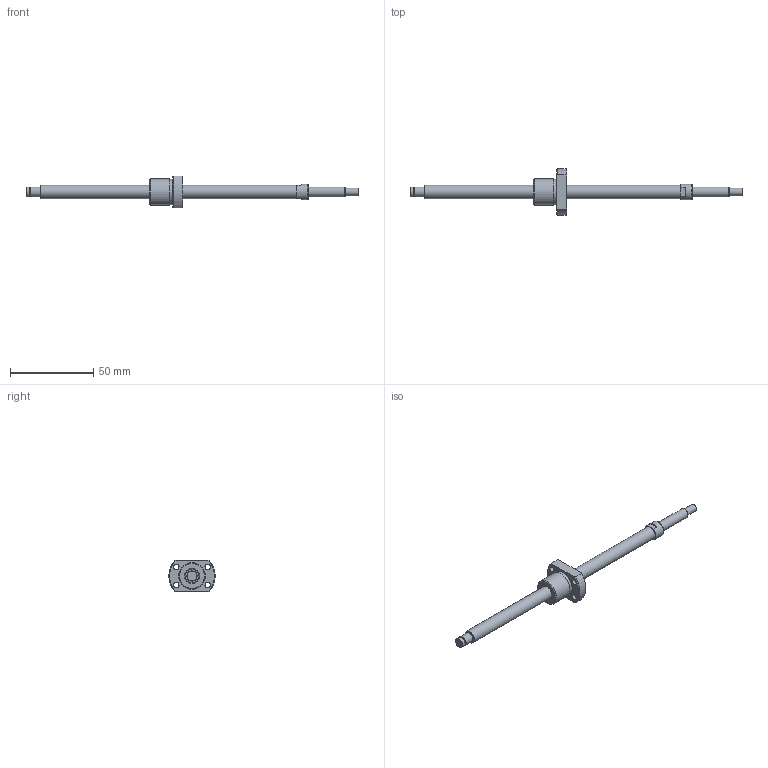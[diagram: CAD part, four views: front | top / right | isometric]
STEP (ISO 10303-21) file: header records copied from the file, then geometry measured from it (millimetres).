
FILE_DESCRIPTION(/* description */ ('STEP AP214'),/* implementation_level */ '2;1');
FILE_NAME(/* name */ 'NSGF0801Z-151R200C3-0-T-S-T-B-(65.5-S)',/* time_stamp */ '2026-08-24T20:10:02+02:00',/* author */ ('License CC BY-ND 4.0'),/* organization */ ('CADENAS'),/* preprocessor_version */ 'ST-DEVELOPER v20',/* originating_system */ 'PARTsolutions',/* authorisation */ ' ');
FILE_SCHEMA (('AUTOMOTIVE_DESIGN {1 0 10303 214 3 1 1}'));
Length unit declared in the file: millimetre
Products named in the file (3): NSGF0801Z-151R200C3-0-T-S-T-B-(65.5-S); NSG0801Z-151R20022_(T-S_T-B_2)-2; NSGF0801Z-1
Assembly tree (2 placements, depth 2):
  NSGF0801Z-151R200C3-0-T-S-T-B-(65.5-S)
    NSG0801Z-151R20022_(T-S_T-B_2)-2
    NSGF0801Z-1
Bounding box: 200 x 27.9 x 19 mm (x, y, z)
Volume: 13200.9 mm3; surface area: 7736.6 mm2
Topology: 2 solids, 2 shells, 47 faces, 99 edges, 64 vertices
Faces by surface type: plane 20, cylinder 17, cone 8, torus 2
Full cylindrical faces by diameter (mm): 3.4 x4, 4.5 x1, 5.7 x1, 6 x3, 8 x2, 9.5 x1, 13 x1, 15.5 x1, 16 x1
Entity records: 1235 total; most frequent: DIRECTION 214, CARTESIAN_POINT 208, ORIENTED_EDGE 148, AXIS2_PLACEMENT_3D 98, EDGE_LOOP 86, FACE_BOUND 86, EDGE_CURVE 74, VERTEX_POINT 60
